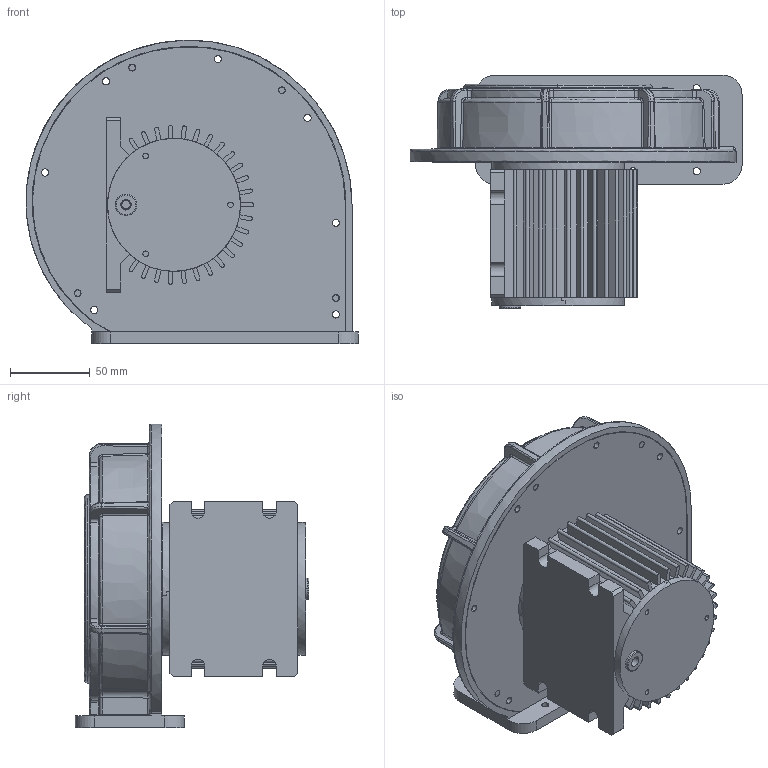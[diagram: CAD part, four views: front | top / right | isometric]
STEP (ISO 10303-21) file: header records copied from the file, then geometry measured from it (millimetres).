
FILE_DESCRIPTION((''),'2;1');
FILE_NAME('_ALL0001_ASM','2026-07-03T17:47:46',('pc'),(''),'CREO PARAMETRIC BY PTC INC, 2018050','CREO PARAMETRIC BY PTC INC, 2018050','');
FILE_SCHEMA(('CONFIG_CONTROL_DESIGN','GEOMETRIC_VALIDATION_PROPERTIES_MIM'));
Products named in the file (24): 0001; 0526_90001; 000; PCB0; 00_ASM; 0526_30001; 0526_170001; 0526_20001; 0526_40001; 0526_50001; 0526_60001; 000_ASM; 0007; 0008; 00; _A00; 001; 2-6000; _ALL0001_ASM
Assembly tree (37 placements, depth 4):
  _ALL0001_ASM
    0001
    00_ASM
      0526_90001
      000
      PCB0
    000
    00_ASM
      0526_30001
      0526_170001
      0526_20001  x2
      000_ASM  x2
        0526_40001
        0526_50001
        0526_60001
      000
    0007
    0008
    00
    00_ASM
      _A00
      00
      001
    00
    2-6000
Bounding box: 208.57 x 146.69 x 190.71 mm (x, y, z)
Volume: 981195.8 mm3; surface area: 588604.3 mm2
Topology: 53 solids, 53 shells, 2709 faces, 7264 edges, 4559 vertices
Faces by surface type: cylinder 1123, plane 824, bspline 340, torus 237, cone 67, sphere 66, extrusion 52
Entity records: 135007 total; most frequent: CARTESIAN_POINT 39909, ORIENTED_EDGE 13656, DIRECTION 12654, PRESENTATION_STYLE_ASSIGNMENT 7469, STYLED_ITEM 7469, EDGE_CURVE 6828, CURVE_STYLE 5351, AXIS2_PLACEMENT_3D 4690
